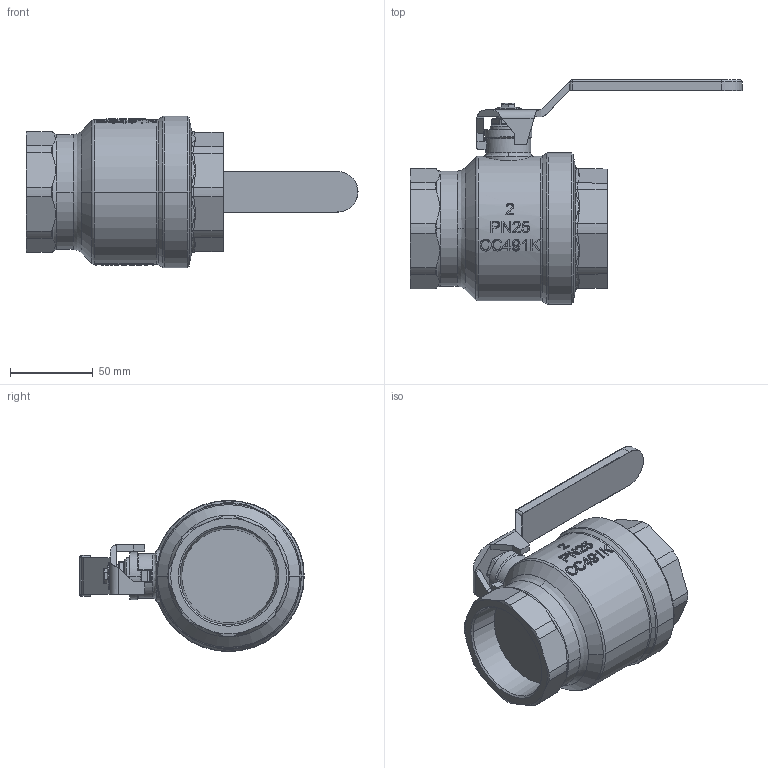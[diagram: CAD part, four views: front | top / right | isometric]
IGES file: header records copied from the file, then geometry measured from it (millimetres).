
Global section: file name: No Iges File Name specified; native system: AutoDesk Inventor R12.0; preprocessor: AutoDesk Inventor Iges Exporter R12.0; date: 20110209.164622; units: millimetre
Bounding box: 200.75 x 135.75 x 91.5 mm (x, y, z)
Volume: 552606.5 mm3; surface area: 61086 mm2
Topology: 1 solids, 1 shells, 1333 faces, 3659 edges, 2393 vertices
Faces by surface type: plane 731, bspline 401, cylinder 76, cone 64, revolution 41, torus 18, sphere 2
